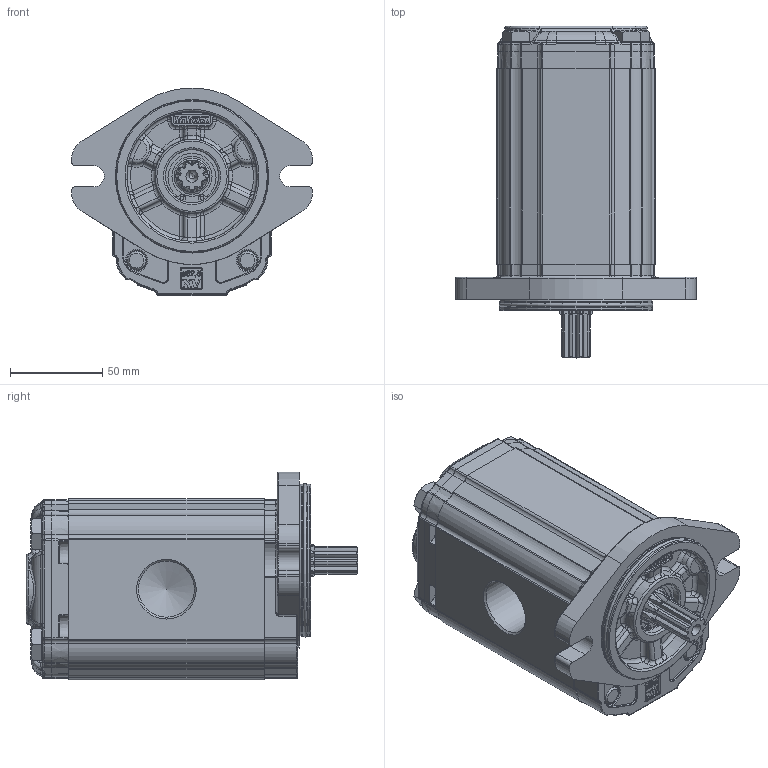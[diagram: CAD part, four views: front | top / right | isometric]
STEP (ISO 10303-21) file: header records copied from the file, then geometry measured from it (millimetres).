
FILE_DESCRIPTION(/* description */ ('Unknown'),/* implementation_level */ '2;1');
FILE_NAME(/* name */ 'X2P6352IDCA',/* time_stamp */ '2020-09-21T11:55:17+02:00',/* author */ ('Unknown'),/* organization */ ('Unknown'),/* preprocessor_version */ 'ST-DEVELOPER v16.7',/* originating_system */ 'DEX',/* authorisation */ $);
FILE_SCHEMA (('AUTOMOTIVE_DESIGN {1 0 10303 214 3 1 1}'));
Products named in the file (5): X2P6352IDCA; X2P52; 2I; X2DCH106; XP219-A
Assembly tree (4 placements, depth 2):
  X2P6352IDCA
    X2P52
    2I
    X2DCH106
    XP219-A
Bounding box: 130.38 x 179.7 x 112.3 mm (x, y, z)
Volume: 1112143.1 mm3; surface area: 122995.2 mm2
Topology: 4 solids, 5 shells, 2195 faces, 5407 edges, 3280 vertices
Faces by surface type: cylinder 649, plane 589, bspline 570, torus 246, cone 103, sphere 38
Full cylindrical faces by diameter (mm): 2 x2, 10 x4, 10.5 x4, 11 x2, 16 x4, 17.42 x1, 17.48 x2, 18.724 x1, 20.595 x1, 21.741 x1, 24.117 x1, 25.834 x1, 28.56 x1, 28.57 x1, 28.8 x1, 30.291 x1, 30.4 x1, 79.6 x2, 82.5 x2
Entity records: 100888 total; most frequent: CARTESIAN_POINT 39076, ORIENTED_EDGE 10468, DIRECTION 8739, EDGE_CURVE 5234, AXIS2_PLACEMENT_3D 3323, VERTEX_POINT 3228, FACE_BOUND 2376, EDGE_LOOP 2372
